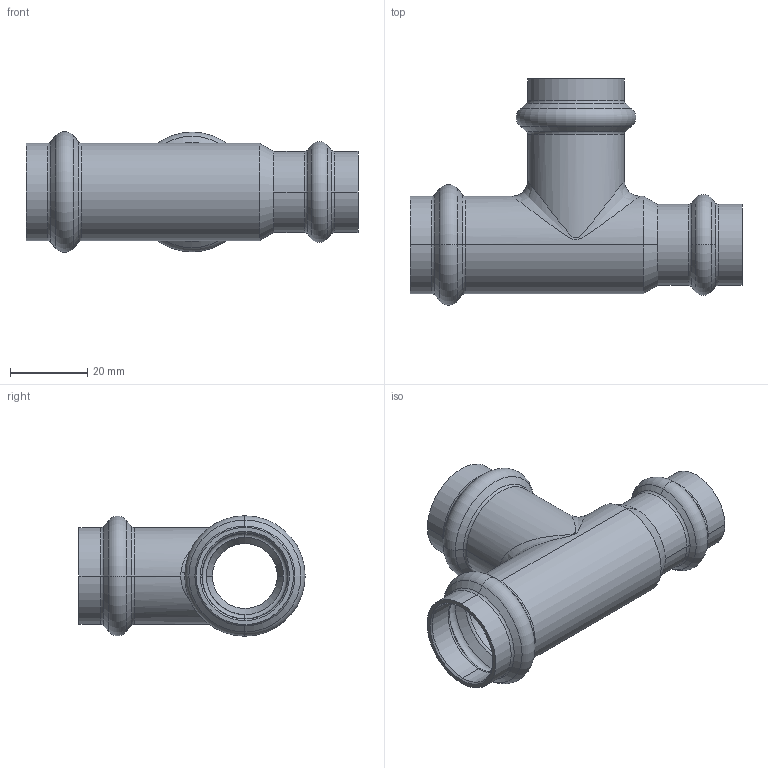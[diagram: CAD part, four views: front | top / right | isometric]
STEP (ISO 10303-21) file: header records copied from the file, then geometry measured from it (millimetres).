
FILE_DESCRIPTION (( 'STEP AP203' ), '1' );
FILE_NAME ('SP5130 Ø22-22-18.STEP', '2017-04-25T14:51:58', ( '' ), ( '' ), 'SwSTEP 2.0', 'SolidWorks 2016', '' );
FILE_SCHEMA (( 'CONFIG_CONTROL_DESIGN' ));
Length unit declared in the file: millimetre
Products named in the file (1): SP5130 Ø22-22-18
Bounding box: 86 x 58.6 x 31.2 mm (x, y, z)
Volume: 16048 mm3; surface area: 18045.8 mm2
Topology: 1 solids, 1 shells, 113 faces, 244 edges, 136 vertices
Faces by surface type: torus 38, cone 36, cylinder 30, plane 5, bspline 4
Entity records: 4497 total; most frequent: CARTESIAN_POINT 1882, DIRECTION 618, ORIENTED_EDGE 488, AXIS2_PLACEMENT_3D 276, EDGE_CURVE 244, CIRCLE 166, VERTEX_POINT 136, EDGE_LOOP 120
